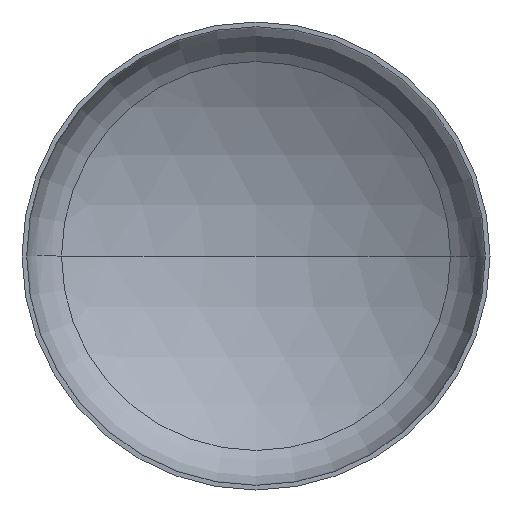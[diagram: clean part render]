
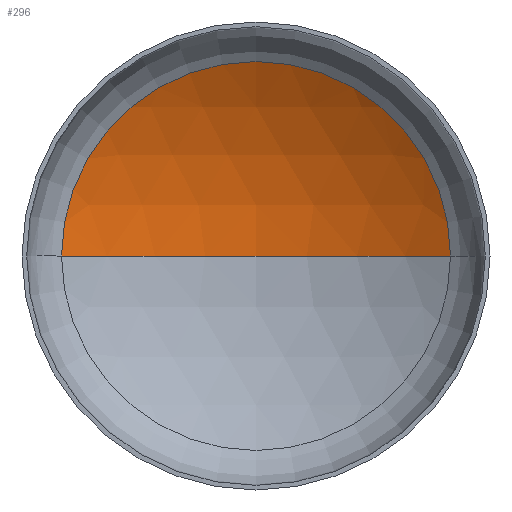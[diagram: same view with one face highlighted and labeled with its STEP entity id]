
A CAD part, front view. The second image highlights one B-rep face of the part: STEP entity #296.
In plain terms, the highlighted spherical face has radius 1600 mm.
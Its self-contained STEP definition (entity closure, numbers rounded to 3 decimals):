
#3 = EDGE_LOOP ( 'NONE', ( #67, #57, #14 ) ) ;
#8 = AXIS2_PLACEMENT_3D ( 'NONE', #181, #176, #206 ) ;
#14 = ORIENTED_EDGE ( 'NONE', *, *, #357, .T. ) ;
#17 = VERTEX_POINT ( 'NONE', #261 ) ;
#35 = AXIS2_PLACEMENT_3D ( 'NONE', #366, #222, #130 ) ;
#57 = ORIENTED_EDGE ( 'NONE', *, *, #386, .T. ) ;
#67 = ORIENTED_EDGE ( 'NONE', *, *, #385, .F. ) ;
#71 = AXIS2_PLACEMENT_3D ( 'NONE', #234, #230, #286 ) ;
#101 = VERTEX_POINT ( 'NONE', #340 ) ;
#120 = VERTEX_POINT ( 'NONE', #342 ) ;
#123 = CIRCLE ( 'NONE', #8, 1600. ) ;
#130 = DIRECTION ( 'NONE',  ( 1., 0., 0. ) ) ;
#173 = SPHERICAL_SURFACE ( 'NONE', #71, 1600. ) ;
#176 = DIRECTION ( 'NONE',  ( 0., 0., 1. ) ) ;
#181 = CARTESIAN_POINT ( 'NONE',  ( 0., -1042.361, 0. ) ) ;
#204 = CIRCLE ( 'NONE', #245, 1600. ) ;
#206 = DIRECTION ( 'NONE',  ( 1., 0., 0. ) ) ;
#222 = DIRECTION ( 'NONE',  ( 0., -1., 0. ) ) ;
#226 = CIRCLE ( 'NONE', #35, 831.008 ) ;
#228 = DIRECTION ( 'NONE',  ( -1., 0., 0. ) ) ;
#230 = DIRECTION ( 'NONE',  ( 0., 0., -1. ) ) ;
#234 = CARTESIAN_POINT ( 'NONE',  ( 0., -1042.361, 0. ) ) ;
#245 = AXIS2_PLACEMENT_3D ( 'NONE', #306, #253, #228 ) ;
#253 = DIRECTION ( 'NONE',  ( 0., 0., -1. ) ) ;
#261 = CARTESIAN_POINT ( 'NONE',  ( 0., 557.639, 0. ) ) ;
#286 = DIRECTION ( 'NONE',  ( -1., 0., 0. ) ) ;
#296 = ADVANCED_FACE ( 'NONE', ( #368 ), #173, .F. ) ;
#306 = CARTESIAN_POINT ( 'NONE',  ( 0., -1042.361, 0. ) ) ;
#340 = CARTESIAN_POINT ( 'NONE',  ( 831.008, 324.908, 0. ) ) ;
#342 = CARTESIAN_POINT ( 'NONE',  ( -831.008, 324.908, 0. ) ) ;
#357 = EDGE_CURVE ( 'NONE', #101, #120, #226, .T. ) ;
#366 = CARTESIAN_POINT ( 'NONE',  ( 0., 324.908, 0. ) ) ;
#368 = FACE_OUTER_BOUND ( 'NONE', #3, .T. ) ;
#385 = EDGE_CURVE ( 'NONE', #17, #120, #123, .T. ) ;
#386 = EDGE_CURVE ( 'NONE', #17, #101, #204, .T. ) ;
